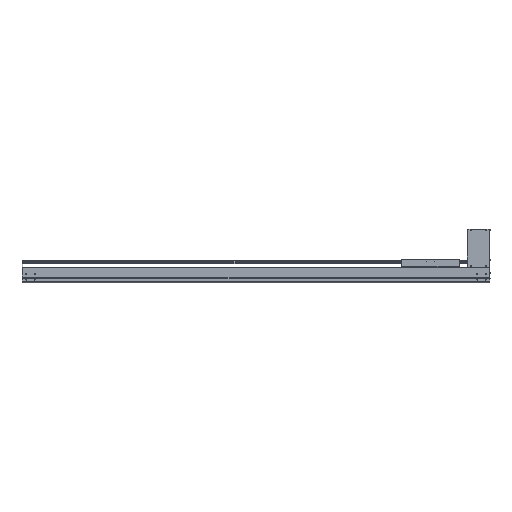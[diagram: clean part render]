
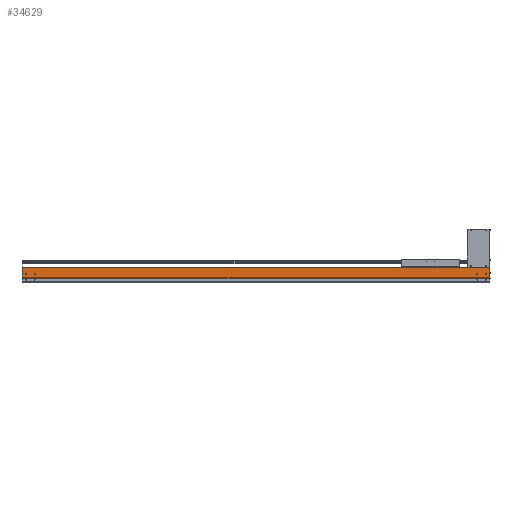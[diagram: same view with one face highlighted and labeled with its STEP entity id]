
A CAD part, top view. The second image highlights one B-rep face of the part: STEP entity #34629.
In plain terms, the highlighted planar face has unit normal (0, 0, 1).
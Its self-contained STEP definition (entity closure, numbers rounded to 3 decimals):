
#9232=DIRECTION('',(-1.,-0.006,-0.017));
#9233=VECTOR('',#9232,1.5);
#9234=CARTESIAN_POINT('',(1.5,94.,107.));
#9235=LINE('',#9234,#9233);
#9236=DIRECTION('',(-1.,0.,0.));
#9237=VECTOR('',#9236,2848.5);
#9238=CARTESIAN_POINT('',(0.,93.5,107.));
#9239=LINE('',#9238,#9237);
#9274=CARTESIAN_POINT('',(0.,93.992,106.974));
#9275=CARTESIAN_POINT('',(0.,93.906,
106.974));
#9276=CARTESIAN_POINT('',(0.,93.75,
107.013));
#9277=CARTESIAN_POINT('',(0.,93.581,107.));
#9278=CARTESIAN_POINT('',(0.,93.5,107.));
#9280=CARTESIAN_POINT('',(-2823.5,54.,107.));
#9281=DIRECTION('',(0.,0.,-1.));
#9282=DIRECTION('',(1.,0.,0.));
#9283=AXIS2_PLACEMENT_3D('',#9280,#9281,#9282);
#9285=CARTESIAN_POINT('',(-2823.5,54.,107.));
#9286=DIRECTION('',(0.,0.,-1.));
#9287=DIRECTION('',(-1.,0.,0.));
#9288=AXIS2_PLACEMENT_3D('',#9285,#9286,#9287);
#9290=CARTESIAN_POINT('',(-2773.5,54.,107.));
#9291=DIRECTION('',(0.,0.,-1.));
#9292=DIRECTION('',(1.,0.,0.));
#9293=AXIS2_PLACEMENT_3D('',#9290,#9291,#9292);
#9295=CARTESIAN_POINT('',(-2773.5,54.,107.));
#9296=DIRECTION('',(0.,0.,-1.));
#9297=DIRECTION('',(-1.,0.,0.));
#9298=AXIS2_PLACEMENT_3D('',#9295,#9296,#9297);
#9300=CARTESIAN_POINT('',(-23.5,54.,107.));
#9301=DIRECTION('',(0.,0.,-1.));
#9302=DIRECTION('',(1.,0.,0.));
#9303=AXIS2_PLACEMENT_3D('',#9300,#9301,#9302);
#9305=CARTESIAN_POINT('',(-23.5,54.,107.));
#9306=DIRECTION('',(0.,0.,-1.));
#9307=DIRECTION('',(-1.,0.,0.));
#9308=AXIS2_PLACEMENT_3D('',#9305,#9306,#9307);
#9310=CARTESIAN_POINT('',(-73.5,54.,107.));
#9311=DIRECTION('',(0.,0.,-1.));
#9312=DIRECTION('',(1.,0.,0.));
#9313=AXIS2_PLACEMENT_3D('',#9310,#9311,#9312);
#9315=CARTESIAN_POINT('',(-73.5,54.,107.));
#9316=DIRECTION('',(0.,0.,-1.));
#9317=DIRECTION('',(-1.,0.,0.));
#9318=AXIS2_PLACEMENT_3D('',#9315,#9316,#9317);
#9320=DIRECTION('',(0.,-1.,0.));
#9321=VECTOR('',#9320,2.55);
#9322=CARTESIAN_POINT('',(-2846.5,34.65,107.));
#9323=LINE('',#9322,#9321);
#9324=DIRECTION('',(0.,-1.,0.));
#9325=VECTOR('',#9324,58.85);
#9326=CARTESIAN_POINT('',(-2848.5,93.5,107.));
#9327=LINE('',#9326,#9325);
#9328=DIRECTION('',(0.,1.,0.));
#9329=VECTOR('',#9328,58.35);
#9330=CARTESIAN_POINT('',(1.5,35.65,107.));
#9331=LINE('',#9330,#9329);
#9332=DIRECTION('',(0.,1.,0.));
#9333=VECTOR('',#9332,3.55);
#9334=CARTESIAN_POINT('',(0.,32.1,107.));
#9335=LINE('',#9334,#9333);
#9336=DIRECTION('',(1.,0.,0.));
#9337=VECTOR('',#9336,2846.5);
#9338=CARTESIAN_POINT('',(-2846.5,32.1,107.));
#9339=LINE('',#9338,#9337);
#9448=DIRECTION('',(1.,0.,0.));
#9449=VECTOR('',#9448,2.);
#9450=CARTESIAN_POINT('',(-2848.5,34.65,107.));
#9451=LINE('',#9450,#9449);
#9472=DIRECTION('',(1.,0.,0.));
#9473=VECTOR('',#9472,1.5);
#9474=CARTESIAN_POINT('',(0.,35.65,107.));
#9475=LINE('',#9474,#9473);
#19126=CARTESIAN_POINT('',(1.5,94.,107.));
#19127=VERTEX_POINT('',#19126);
#19128=CARTESIAN_POINT('',(1.5,35.65,107.));
#19129=VERTEX_POINT('',#19128);
#19198=CARTESIAN_POINT('',(-2848.5,34.65,107.));
#19199=VERTEX_POINT('',#19198);
#19200=CARTESIAN_POINT('',(-2848.5,93.5,107.));
#19201=VERTEX_POINT('',#19200);
#19426=CARTESIAN_POINT('',(-2846.5,32.1,107.));
#19427=VERTEX_POINT('',#19426);
#19477=CARTESIAN_POINT('',(0.,32.1,107.));
#19479=VERTEX_POINT('',#19477);
#20148=CARTESIAN_POINT('',(-2821.,54.,107.));
#20149=CARTESIAN_POINT('',(-2826.,54.,107.));
#20150=VERTEX_POINT('',#20148);
#20151=VERTEX_POINT('',#20149);
#20152=CARTESIAN_POINT('',(-2771.,54.,107.));
#20153=CARTESIAN_POINT('',(-2776.,54.,107.));
#20154=VERTEX_POINT('',#20152);
#20155=VERTEX_POINT('',#20153);
#20156=CARTESIAN_POINT('',(-21.,54.,107.));
#20157=CARTESIAN_POINT('',(-26.,54.,107.));
#20158=VERTEX_POINT('',#20156);
#20159=VERTEX_POINT('',#20157);
#20160=CARTESIAN_POINT('',(-71.,54.,107.));
#20161=CARTESIAN_POINT('',(-76.,54.,107.));
#20162=VERTEX_POINT('',#20160);
#20163=VERTEX_POINT('',#20161);
#22658=CARTESIAN_POINT('',(0.,35.65,107.));
#22659=VERTEX_POINT('',#22658);
#22660=CARTESIAN_POINT('',(0.,93.975,106.923));
#22662=VERTEX_POINT('',#22660);
#22805=VERTEX_POINT('',#9278);
#23261=CARTESIAN_POINT('',(-2846.5,34.65,107.));
#23262=VERTEX_POINT('',#23261);
#34585=CARTESIAN_POINT('',(-1423.25,62.8,107.));
#34586=DIRECTION('',(0.,0.,1.));
#34587=DIRECTION('',(0.,-1.,0.));
#34588=AXIS2_PLACEMENT_3D('',#34585,#34586,#34587);
#34589=PLANE('',#34588);
#34590=ORIENTED_EDGE('',*,*,#25158,.F.);
#34592=ORIENTED_EDGE('',*,*,#34591,.F.);
#34593=ORIENTED_EDGE('',*,*,#27414,.F.);
#34594=ORIENTED_EDGE('',*,*,#34569,.F.);
#34595=ORIENTED_EDGE('',*,*,#34580,.F.);
#34596=ORIENTED_EDGE('',*,*,#34559,.F.);
#34597=ORIENTED_EDGE('',*,*,#24086,.F.);
#34599=ORIENTED_EDGE('',*,*,#34598,.F.);
#34600=ORIENTED_EDGE('',*,*,#25915,.F.);
#34602=ORIENTED_EDGE('',*,*,#34601,.F.);
#34603=EDGE_LOOP('',(#34590,#34592,#34593,#34594,#34595,#34596,#34597,#34599,
#34600,#34602));
#34604=FACE_OUTER_BOUND('',#34603,.F.);
#34606=ORIENTED_EDGE('',*,*,#34605,.F.);
#34608=ORIENTED_EDGE('',*,*,#34607,.F.);
#34609=EDGE_LOOP('',(#34606,#34608));
#34610=FACE_BOUND('',#34609,.F.);
#34612=ORIENTED_EDGE('',*,*,#34611,.F.);
#34614=ORIENTED_EDGE('',*,*,#34613,.F.);
#34615=EDGE_LOOP('',(#34612,#34614));
#34616=FACE_BOUND('',#34615,.F.);
#34618=ORIENTED_EDGE('',*,*,#34617,.F.);
#34620=ORIENTED_EDGE('',*,*,#34619,.F.);
#34621=EDGE_LOOP('',(#34618,#34620));
#34622=FACE_BOUND('',#34621,.F.);
#34624=ORIENTED_EDGE('',*,*,#34623,.F.);
#34626=ORIENTED_EDGE('',*,*,#34625,.F.);
#34627=EDGE_LOOP('',(#34624,#34626));
#34628=FACE_BOUND('',#34627,.F.);
#34629=ADVANCED_FACE('',(#34604,#34610,#34616,#34622,#34628),#34589,.T.);
#9279=B_SPLINE_CURVE_WITH_KNOTS('',3,(#9274,#9275,#9276,#9277,#9278),
.UNSPECIFIED.,.F.,.F.,(4,1,4),(0.,0.5,1.),.UNSPECIFIED.);
#9284=CIRCLE('',#9283,2.5);
#9289=CIRCLE('',#9288,2.5);
#9294=CIRCLE('',#9293,2.5);
#9299=CIRCLE('',#9298,2.5);
#9304=CIRCLE('',#9303,2.5);
#9309=CIRCLE('',#9308,2.5);
#9314=CIRCLE('',#9313,2.5);
#9319=CIRCLE('',#9318,2.5);
#24086=EDGE_CURVE('',#19129,#19127,#9331,.T.);
#25158=EDGE_CURVE('',#23262,#19427,#9323,.T.);
#25915=EDGE_CURVE('',#19479,#22659,#9335,.T.);
#27414=EDGE_CURVE('',#19201,#19199,#9327,.T.);
#34559=EDGE_CURVE('',#19127,#22662,#9235,.T.);
#34569=EDGE_CURVE('',#22805,#19201,#9239,.T.);
#34580=EDGE_CURVE('',#22662,#22805,#9279,.T.);
#34591=EDGE_CURVE('',#19199,#23262,#9451,.T.);
#34598=EDGE_CURVE('',#22659,#19129,#9475,.T.);
#34601=EDGE_CURVE('',#19427,#19479,#9339,.T.);
#34605=EDGE_CURVE('',#20154,#20155,#9294,.T.);
#34607=EDGE_CURVE('',#20155,#20154,#9299,.T.);
#34611=EDGE_CURVE('',#20158,#20159,#9304,.T.);
#34613=EDGE_CURVE('',#20159,#20158,#9309,.T.);
#34617=EDGE_CURVE('',#20162,#20163,#9314,.T.);
#34619=EDGE_CURVE('',#20163,#20162,#9319,.T.);
#34623=EDGE_CURVE('',#20150,#20151,#9284,.T.);
#34625=EDGE_CURVE('',#20151,#20150,#9289,.T.);
